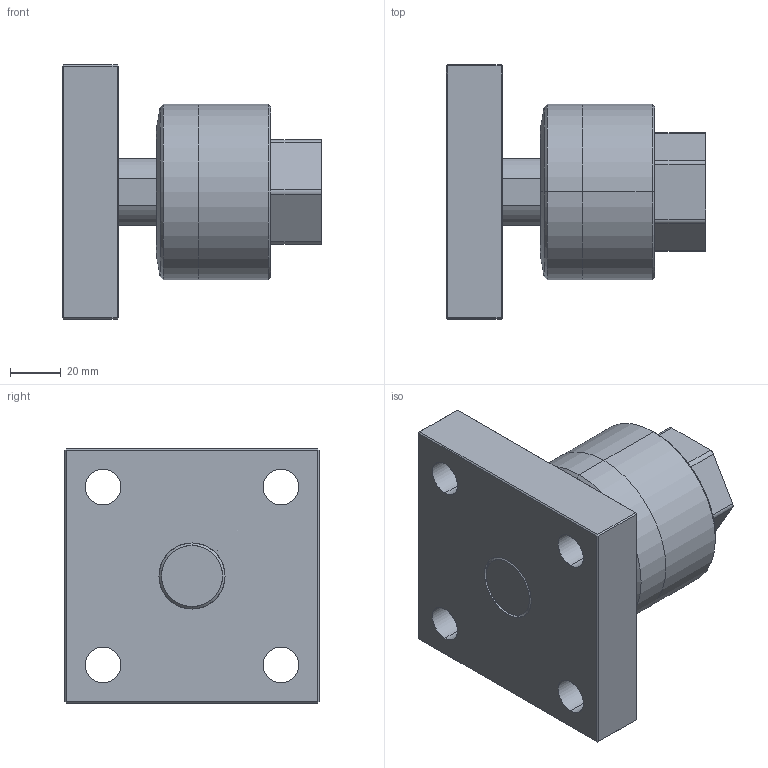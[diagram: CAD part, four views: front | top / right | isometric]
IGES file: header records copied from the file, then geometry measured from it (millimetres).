
Start section: SolidWorks IGES file using analytic representation for surfaces
Global section: file name: C:\Users\Toshiba\Desktop\FCM26A-1.5-F.IGS; native system: SolidWorks 2014; preprocessor: SolidWorks 2014; author: Toshiba; date: 160414.100005; units: millimetre
Bounding box: 102 x 100 x 100 mm (x, y, z)
Surface area: 56110 mm2 (no closed solid volume)
Topology: 0 solids, 0 shells, 81 faces, 998 edges, 998 vertices
Faces by surface type: bspline 45, revolution 36
